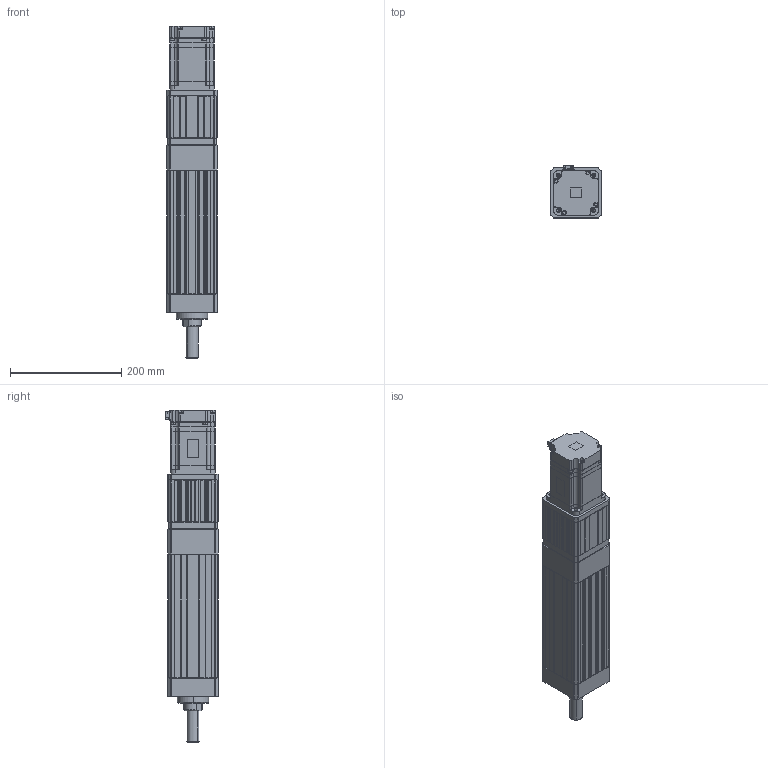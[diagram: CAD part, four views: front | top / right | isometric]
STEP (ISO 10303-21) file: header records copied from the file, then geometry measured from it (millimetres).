
FILE_DESCRIPTION (( 'STEP AP203' ), '1' );
FILE_NAME ('ANS090R-S100-05(10)(20)-W75-M.STEP', '2019-03-02T10:50:32', ( 'user' ), ( '' ), 'SwSTEP 2.0', 'SolidWorks 2013', '' );
FILE_SCHEMA (( 'CONFIG_CONTROL_DESIGN' ));
Length unit declared in the file: millimetre
Products named in the file (4): ANS090 ROD ST100-M; ANS090R-S100-05(10)(20)-W75-M; ANS090R S100 VER2; SGMJV_08A_A21
Assembly tree (3 placements, depth 2):
  ANS090R-S100-05(10)(20)-W75-M
    ANS090R S100 VER2
    SGMJV_08A_A21
    ANS090 ROD ST100-M
Bounding box: 90 x 93.8 x 596.1 mm (x, y, z)
Volume: 2519179.9 mm3; surface area: 386374.4 mm2
Topology: 3 solids, 3 shells, 1438 faces, 3878 edges, 2504 vertices
Faces by surface type: plane 930, cylinder 404, cone 100, bspline 4
Entity records: 45220 total; most frequent: CARTESIAN_POINT 8496, ORIENTED_EDGE 7708, DIRECTION 7414, EDGE_CURVE 3854, LINE 2890, VECTOR 2890, VERTEX_POINT 2504, AXIS2_PLACEMENT_3D 2262
